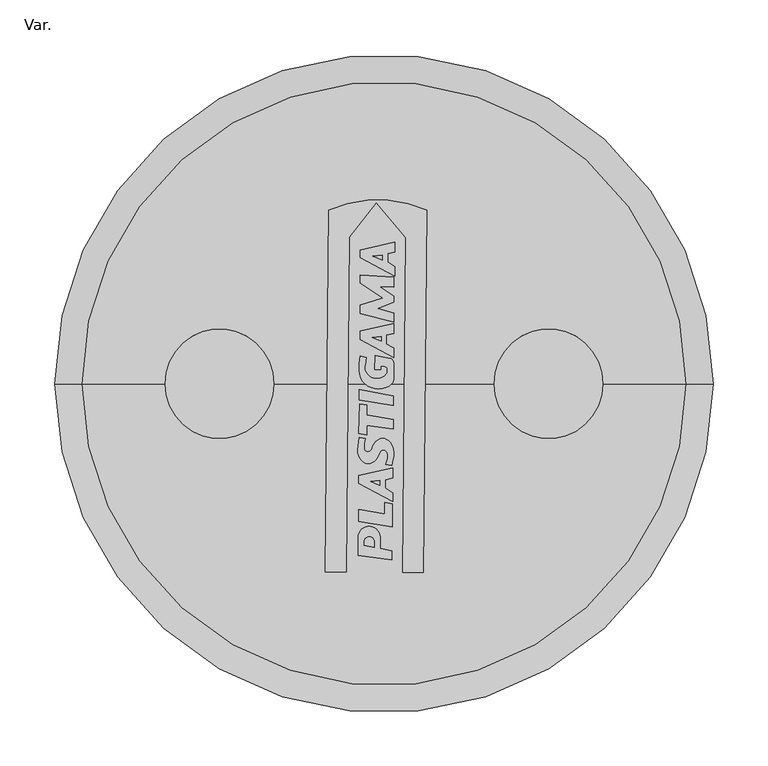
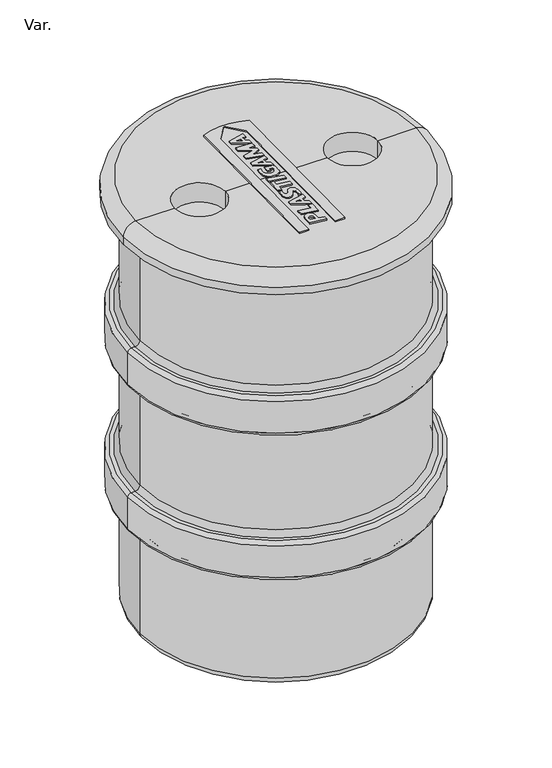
"""IFC4 building model written with IfcOpenShell, lengths in millimetres: pipe fitting geometry, PlastigamaWavin_Unionesdetubería_Tanque55Galones : Var.."""

import ifcopenshell
import ifcopenshell.guid

model = None  # the IFC model being written
_history = None  # IfcOwnerHistory: only IFC2X3 demands one
_inside = {}  # id of a spatial element -> (the spatial element, [elements in it])
_under = {}  # id of a project, library or spatial element -> (it, [spatial elements below it])
_declared = {}  # id of a project -> (the project, [libraries it declares])
_typed = {}  # id of a type object -> (the type object, [elements of that type])
_made_of = {}  # id of a material, layer set ... -> (it, [elements and type objects made of it])


def new_model(schema):
    """Start an empty IFC model of exactly this schema.

    Asked for "IFC4X3", IfcOpenShell would pick the latest addendum, in which some entities
    have other attributes; the version numbers below select the first issue.
    IFC2X3 requires an IfcOwnerHistory on every rooted entity: one is made here for all.
    """
    global model, _history
    if schema == "IFC4X3":
        model = ifcopenshell.file(schema_version=(4, 3, 0, 0))
    else:
        model = ifcopenshell.file(schema=schema)
    _inside.clear()
    _under.clear()
    _declared.clear()
    _typed.clear()
    _made_of.clear()
    _history = None
    if model.schema == "IFC2X3":
        org = make("IfcOrganization", Name="unknown")
        user = make(
            "IfcPersonAndOrganization",
            ThePerson=make("IfcPerson", FamilyName="unknown"),
            TheOrganization=org,
        )
        app = make(
            "IfcApplication",
            ApplicationDeveloper=org,
            Version="unknown",
            ApplicationFullName="unknown",
            ApplicationIdentifier="unknown",
        )
        _history = make(
            "IfcOwnerHistory",
            OwningUser=user,
            OwningApplication=app,
            ChangeAction="ADDED",
            CreationDate=0,
        )
    return model


def make(cls, **values):
    """One entity of the class cls with the attributes given. An attribute that is None is left unset."""
    return model.create_entity(
        cls, **{name: value for name, value in values.items() if value is not None}
    )


def rooted(cls, **values):
    """An entity with a GlobalId (a new one), such as an element, a storey or a relation."""
    return make(cls, GlobalId=ifcopenshell.guid.new(), OwnerHistory=_history, **values)


def si_unit(unit_type, name, prefix=None):
    """IfcSIUnit, for example si_unit("LENGTHUNIT", "METRE", prefix="MILLI")."""
    return make("IfcSIUnit", UnitType=unit_type, Prefix=prefix, Name=name)


def assignment(units):
    """IfcUnitAssignment: the units of a project."""
    return None if units is None else make("IfcUnitAssignment", Units=units)


def point(xyz):
    """IfcCartesianPoint."""
    return None if xyz is None else make("IfcCartesianPoint", Coordinates=xyz)


def direction(xyz):
    """IfcDirection."""
    return None if xyz is None else make("IfcDirection", DirectionRatios=xyz)


def frame(location, z_axis=None, x_axis=None):
    """IfcAxis2Placement3D, a coordinate frame: its origin and axes. An axis left out is left unset."""
    return make(
        "IfcAxis2Placement3D",
        Location=point(location),
        Axis=direction(z_axis),
        RefDirection=direction(x_axis),
    )


def frame_2d(location, x_axis=None):
    """IfcAxis2Placement2D, a coordinate frame in the plane: its origin and x axis."""
    return make(
        "IfcAxis2Placement2D", Location=point(location), RefDirection=direction(x_axis)
    )


def origin():
    """The frame at (0, 0, 0) with its axes left unset."""
    return frame((0.0, 0.0, 0.0))


def place(relative_to, where):
    """IfcLocalPlacement: puts the frame where relative to a parent placement (None: the world)."""
    return make(
        "IfcLocalPlacement", PlacementRelTo=relative_to, RelativePlacement=where
    )


def context(
    kind, dimensions, precision=None, world=None, true_north=None, identifier=None
):
    """IfcGeometricRepresentationContext, for example the 3D "Model" context."""
    return make(
        "IfcGeometricRepresentationContext",
        ContextIdentifier=identifier,
        ContextType=kind,
        CoordinateSpaceDimension=dimensions,
        Precision=precision,
        WorldCoordinateSystem=world,
        TrueNorth=true_north,
    )


def project(units=None, contexts=None):
    """IfcProject with its units and contexts."""
    return rooted(
        "IfcProject",
        Name="project",
        RepresentationContexts=contexts,
        UnitsInContext=assignment(units),
    )


def spatial(cls, under=None, at=None, **own):
    """A site, building, storey or space (cls), placed at a placement, below another one or the project."""
    s = rooted(cls, ObjectPlacement=at, **own)
    if under is not None:
        _under.setdefault(under.id(), (under, []))[1].append(s)
    return s


def polyline(points):
    """IfcPolyline through the points."""
    return make("IfcPolyline", Points=[point(p) for p in points])


def circle_curve(where, radius):
    """IfcCircle in the frame where."""
    return make("IfcCircle", Position=where, Radius=radius)


def ellipse_curve(where, semi_axis1, semi_axis2):
    """IfcEllipse in the frame where."""
    return make(
        "IfcEllipse", Position=where, SemiAxis1=semi_axis1, SemiAxis2=semi_axis2
    )


def trimmed(basis, trim1, trim2, sense, master):
    """IfcTrimmedCurve: the piece of a basis curve between two trims."""
    return make(
        "IfcTrimmedCurve",
        BasisCurve=basis,
        Trim1=trim1,
        Trim2=trim2,
        SenseAgreement=sense,
        MasterRepresentation=master,
    )


def segment(curve, same_sense, transition):
    """IfcCompositeCurveSegment."""
    return make(
        "IfcCompositeCurveSegment",
        Transition=transition,
        SameSense=same_sense,
        ParentCurve=curve,
    )


def composite_curve(segments, self_intersect=None):
    """IfcCompositeCurve: segments joined end to end."""
    return make("IfcCompositeCurve", Segments=segments, SelfIntersect=self_intersect)


def outline(outer, holes=None, kind="AREA"):
    """IfcArbitraryClosedProfileDef: a profile drawn as a closed curve; with holes, ...WithVoids."""
    if holes is None:
        return make("IfcArbitraryClosedProfileDef", ProfileType=kind, OuterCurve=outer)
    return make(
        "IfcArbitraryProfileDefWithVoids",
        ProfileType=kind,
        OuterCurve=outer,
        InnerCurves=holes,
    )


def extrude(swept, where, along, depth):
    """IfcExtrudedAreaSolid: the profile swept, set in the frame where, extruded along a direction by depth."""
    return make(
        "IfcExtrudedAreaSolid",
        SweptArea=swept,
        Position=where,
        ExtrudedDirection=direction(along),
        Depth=depth,
    )


def shape(context_of_items, identifier, shape_type, items):
    """IfcShapeRepresentation: the items that make up one representation, for example the "Body"."""
    return make(
        "IfcShapeRepresentation",
        ContextOfItems=context_of_items,
        RepresentationIdentifier=identifier,
        RepresentationType=shape_type,
        Items=items,
    )


def source(mapping_origin, context_of_items, identifier, shape_type, items):
    """IfcRepresentationMap: a shape defined once, which mapped items show again and again."""
    return make(
        "IfcRepresentationMap",
        MappingOrigin=mapping_origin,
        MappedRepresentation=shape(context_of_items, identifier, shape_type, items),
    )


def transform(
    local_origin,
    x_axis=None,
    y_axis=None,
    z_axis=None,
    scale=None,
    scale2=None,
    scale3=None,
    uniform=True,
):
    """IfcCartesianTransformationOperator3D, or its non-uniform kind. x_axis, y_axis, z_axis: its Axis1, 2, 3."""
    if uniform:
        return make(
            "IfcCartesianTransformationOperator3D",
            Axis1=direction(x_axis),
            Axis2=direction(y_axis),
            LocalOrigin=point(local_origin),
            Scale=scale,
            Axis3=direction(z_axis),
        )
    return make(
        "IfcCartesianTransformationOperator3DnonUniform",
        Axis1=direction(x_axis),
        Axis2=direction(y_axis),
        LocalOrigin=point(local_origin),
        Scale=scale,
        Axis3=direction(z_axis),
        Scale2=scale2,
        Scale3=scale3,
    )


def mapped(mapping_source, mapping_target):
    """IfcMappedItem: shows the shape of a source again, moved by a transform."""
    return make(
        "IfcMappedItem", MappingSource=mapping_source, MappingTarget=mapping_target
    )


def made_of(thing, what):
    """Note that an element or type object is made of a material, layer set ...; save() writes the relation."""
    if what is not None:
        _made_of.setdefault(what.id(), (what, []))[1].append(thing)
    return thing


def element(
    cls,
    number,
    at=None,
    inside=None,
    cuts=None,
    type_object=None,
    material=None,
    context=None,
    identifier="Body",
    shape_type=None,
    held_by="IfcProductDefinitionShape",
    body=None,
    shapes=None,
    **own,
):
    """One element of the class cls, such as IfcWall. Its Tag is "e" and its number.

    at: its placement. inside: the storey or other place that contains it. cuts: it is an
    opening in that element (IfcRelVoidsElement). A single representation is given by context,
    identifier, shape_type and body (its items); several are given by shapes. held_by: the class
    of the entity that holds the representations. save() writes the other relations.
    """
    e = rooted(cls, Tag="e%d" % number, ObjectPlacement=at, **own)
    if body is not None:
        shapes = [shape(context, identifier, shape_type, body)]
    if shapes is not None:
        e.Representation = make(held_by, Representations=shapes)
    if inside is not None:
        _inside.setdefault(inside.id(), (inside, []))[1].append(e)
    if cuts is not None:
        rooted(
            "IfcRelVoidsElement", RelatingBuildingElement=cuts, RelatedOpeningElement=e
        )
    if type_object is not None:
        _typed.setdefault(type_object.id(), (type_object, []))[1].append(e)
    return made_of(e, material)


def aggregate(whole, parts):
    """IfcRelAggregates: a whole, such as a stair, and the parts it consists of."""
    return rooted("IfcRelAggregates", RelatingObject=whole, RelatedObjects=parts)


def save(model, path):
    """Write the relations noted so far, then the file.

    IfcRelAggregates (storeys below a building ...), IfcRelContainedInSpatialStructure (elements
    in a storey), IfcRelDefinesByType, IfcRelAssociatesMaterial and IfcRelDeclares: one each for
    every whole, place, type object, material and project.
    """
    for whole, parts in _under.values():
        aggregate(whole, parts)
    for where, things in _inside.values():
        rooted(
            "IfcRelContainedInSpatialStructure",
            RelatedElements=things,
            RelatingStructure=where,
        )
    for kind, things in _typed.values():
        rooted("IfcRelDefinesByType", RelatedObjects=things, RelatingType=kind)
    for what, things in _made_of.values():
        rooted("IfcRelAssociatesMaterial", RelatedObjects=things, RelatingMaterial=what)
    for by, libraries in _declared.values():
        rooted("IfcRelDeclares", RelatingContext=by, RelatedDefinitions=libraries)
    model.write(path)


def plane_surface(at):
    """IfcPlane: the flat surface through the origin of the frame at, square to its z axis."""
    return make("IfcPlane", Position=at)


def cylinder_surface(at, radius):
    """IfcCylindricalSurface: all points at the distance radius from the z axis of the frame at."""
    return make("IfcCylindricalSurface", Position=at, Radius=radius)


def revolved_surface(curve, axis_point, axis_direction):
    """IfcSurfaceOfRevolution: the curve turned about the line through axis_point along axis_direction."""
    return make(
        "IfcSurfaceOfRevolution",
        SweptCurve=make("IfcArbitraryOpenProfileDef", ProfileType="CURVE", Curve=curve),
        AxisPosition=make("IfcAxis1Placement", Location=point(axis_point), Axis=direction(axis_direction)),
    )


def advanced_brep(points, edges, surfaces, faces):
    """IfcAdvancedBrep: a solid bounded by faces that lie on surfaces and meet in shared edges.

    An edge is (start, end): straight between two places in points (the first is 0);
    or (start, end, curve); or (start, end, curve, False) where it runs against its curve.
    A face is (place in surfaces, loops), or (place, loops, False) where it looks against
    its surface's normal. A loop lists edges by number (the first is 1), with a minus sign
    where the edge is run from its end to its start. The first loop is the outer one.
    """
    corners = [point(p) for p in points]
    vertices = [make("IfcVertexPoint", VertexGeometry=c) for c in corners]
    made = []
    for start, end, *more in edges:
        made.append(
            make(
                "IfcEdgeCurve",
                EdgeStart=vertices[start],
                EdgeEnd=vertices[end],
                EdgeGeometry=more[0] if more else make("IfcPolyline", Points=[corners[start], corners[end]]),
                SameSense=more[1] if len(more) > 1 else True,
            )
        )
    hull = []
    for where, loops, *sense in faces:
        bounds = []
        for j, loop in enumerate(loops):
            ring = [make("IfcOrientedEdge", EdgeElement=made[abs(k) - 1], Orientation=k > 0) for k in loop]
            bounds.append(
                make(
                    "IfcFaceOuterBound" if j == 0 else "IfcFaceBound",
                    Bound=make("IfcEdgeLoop", EdgeList=ring),
                    Orientation=True,
                )
            )
        hull.append(make("IfcAdvancedFace", Bounds=bounds, FaceSurface=surfaces[where], SameSense=sense[0] if sense else True))
    return make("IfcAdvancedBrep", Outer=make("IfcClosedShell", CfsFaces=hull))


def var_b17b46ca(model_context):
    return source(origin(), model_context, "Body", "SolidModel", [
        extrude(outline(composite_curve([segment(polyline([(-31.5385219, 133.859605), (-34.3652598, -171.5841986), (-53.4936229, -171.5841986), (-50.4421784, 158.1403342)]), True, "CONTINUOUS"), segment(trimmed(circle_curve(frame_2d((-5.7278647, 58.8979549)), 108.8504464), [point((-50.4421784, 158.1403342))], [point((38.986449, 158.1403342))], False, "CARTESIAN"), True, "CONTINUOUS"), segment(polyline([(38.986449, 158.1403342), (35.9289635, -172.2369583), (17.0404798, -172.2369583), (19.8701297, 133.5214992), (-6.8880963, 165.4107111), (-31.5385219, 133.859605)]), True, "CONTINUOUS")], self_intersect=False)), frame((0.0, 0.0, 873.4), z_axis=(0.0, 0.0, 1.0), x_axis=(1.0, 0.0, 0.0)), (0.0, 0.0, 1.0), 2.5),
        extrude(outline(composite_curve([segment(polyline([(-23.6323509, -156.3911548), (-23.6323509, -139.994773)]), True, "CONTINUOUS"), segment(trimmed(circle_curve(frame_2d((-13.6284364, -139.994773)), 10.0039144), [point((-23.6323509, -139.994773))], [point((-3.624522, -139.994773))], False, "CARTESIAN"), True, "CONTINUOUS"), segment(polyline([(-3.624522, -139.994773), (-3.624522, -150.3469533), (7.192797, -152.4496271), (7.192797, -160.7233469), (-23.6323509, -156.3911548)]), True, "CONTINUOUS")], self_intersect=False), holes=[composite_curve([segment(polyline([(-8.8328403, -149.3345588), (-8.8328403, -144.0145289)]), True, "CONTINUOUS"), segment(trimmed(circle_curve(frame_2d((-13.3920421, -144.0145289)), 4.5592018), [point((-8.8328403, -144.0145289))], [point((-17.7746281, -142.7578426))], True, "CARTESIAN"), True, "CONTINUOUS"), segment(polyline([(-17.7746281, -142.7578426), (-17.7746281, -147.5964513), (-8.8328403, -149.3345588)]), True, "CONTINUOUS")], self_intersect=False)]), frame((0.0, 0.0, 873.4), z_axis=(0.0, 0.0, 1.0), x_axis=(1.0, 0.0, 0.0)), (0.0, 0.0, 1.0), 2.5),
        extrude(outline(polyline([(-23.1956774, -125.5469152), (-23.1956774, -114.64737), (0.5456779, -118.9297873), (0.5456779, -108.4474914), (7.5664867, -109.5594783), (7.5664867, -130.4191633), (-23.1956774, -125.5469152)])), frame((0.0, 0.0, 873.4), z_axis=(0.0, 0.0, 1.0), x_axis=(1.0, 0.0, 0.0)), (0.0, 0.0, 1.0), 2.5),
        extrude(outline(polyline([(-23.1956774, -83.5332099), (7.837741, -76.9368532), (7.837741, -85.6809884), (0.9404896, -87.5291013), (0.9404896, -95.0129013), (7.837741, -99.4920287), (7.837741, -107.549982), (-23.1956774, -90.8622131), (-23.1956774, -83.5332099)]), holes=[polyline([(-3.9574408, -88.2263015), (-12.1373795, -89.0860477), (-3.9574408, -92.8157668), (-3.9574408, -88.2263015)])]), frame((0.0, 0.0, 873.4), z_axis=(0.0, 0.0, 1.0), x_axis=(1.0, 0.0, 0.0)), (0.0, 0.0, 1.0), 2.5),
        extrude(outline(composite_curve([segment(polyline([(6.8385227, -74.3063168), (1.5490786, -73.3736451)]), True, "CONTINUOUS"), segment(trimmed(circle_curve(frame_2d((-10.0642147, -66.5867195)), 13.4510572), [point((1.5490786, -73.3736451))], [point((2.8479599, -62.8175437))], True, "CARTESIAN"), True, "CONTINUOUS"), segment(trimmed(circle_curve(frame_2d((-0.4256868, -63.7731496)), 3.4102706), [point((2.8479599, -62.8175437))], [point((-2.7829451, -61.3087472))], True, "CARTESIAN"), True, "CONTINUOUS"), segment(trimmed(circle_curve(frame_2d((9.7682105, -71.0752619)), 15.9033429), [point((-2.7829451, -61.3087472))], [point((-5.2540374, -65.8552635))], True, "CARTESIAN"), True, "CONTINUOUS"), segment(trimmed(circle_curve(frame_2d((-14.9330175, -62.4919678)), 10.2466782), [point((-5.2540374, -65.8552635))], [point((-16.8598081, -72.5558583))], False, "CARTESIAN"), True, "CONTINUOUS"), segment(trimmed(circle_curve(frame_2d((-11.7475447, -61.5925741)), 12.0966457), [point((-16.8598081, -72.5558583))], [point((-23.798159, -60.538282))], False, "CARTESIAN"), True, "CONTINUOUS"), segment(polyline([(-23.798159, -60.538282), (-22.7719817, -48.8090209), (-17.2120011, -49.7893954), (-17.7837428, -54.4458584)]), True, "CONTINUOUS"), segment(trimmed(circle_curve(frame_2d((10.8726129, -58.6156266)), 28.9581368), [point((-17.7837428, -54.4458584))], [point((-18.085524, -58.6156266))], True, "CARTESIAN"), True, "CONTINUOUS"), segment(trimmed(circle_curve(frame_2d((-14.6255215, -58.6156266)), 3.4600025), [point((-18.085524, -58.6156266))], [point((-11.3463487, -59.7195483))], True, "CARTESIAN"), True, "CONTINUOUS"), segment(trimmed(circle_curve(frame_2d((10.4189679, -67.0467638)), 22.9655632), [point((-11.3463487, -59.7195483))], [point((-8.593666, -54.1651161))], False, "CARTESIAN"), True, "CONTINUOUS"), segment(trimmed(circle_curve(frame_2d((-1.2726628, -58.3957643)), 8.4554994), [point((-8.593666, -54.1651161))], [point((6.0483403, -54.1651161))], False, "CARTESIAN"), True, "CONTINUOUS"), segment(trimmed(circle_curve(frame_2d((-11.6011034, -64.3643451)), 20.3844826), [point((6.0483403, -54.1651161))], [point((8.7058102, -62.5877203))], False, "CARTESIAN"), True, "CONTINUOUS"), segment(trimmed(circle_curve(frame_2d((-11.6011034, -64.3643451)), 20.3844826), [point((8.7058102, -62.5877203))], [point((8.0887949, -69.6402374))], False, "CARTESIAN"), True, "CONTINUOUS"), segment(polyline([(8.0887949, -69.6402374), (6.8385227, -74.3063168)]), True, "CONTINUOUS")], self_intersect=False)), frame((0.0, 0.0, 873.4), z_axis=(0.0, 0.0, 1.0), x_axis=(1.0, 0.0, 0.0)), (0.0, 0.0, 1.0), 2.5),
        extrude(outline(polyline([(-15.680623, -46.7961287), (-22.8586034, -45.5304571), (-22.1107527, -18.4418439), (-15.680623, -19.3455397), (-15.680623, -28.3243983), (8.3617078, -32.5637099), (8.3617078, -41.2381061), (-15.680623, -37.8591769), (-15.680623, -46.7961287)])), frame((0.0, 0.0, 873.4), z_axis=(0.0, 0.0, 1.0), x_axis=(1.0, 0.0, 0.0)), (0.0, 0.0, 1.0), 2.5),
        extrude(outline(polyline([(-22.7512265, -14.8981025), (-22.4808988, -5.1063028), (8.4516878, -11.1189886), (8.4516878, -19.8401587), (-22.7512265, -14.8981025)])), frame((0.0, 0.0, 873.4), z_axis=(0.0, 0.0, 1.0), x_axis=(1.0, 0.0, 0.0)), (0.0, 0.0, 1.0), 2.5),
        extrude(outline(composite_curve([segment(polyline([(-2.8845017, 12.7639927), (-8.2163464, 13.1368316), (-7.879318, 25.6872293), (5.4838506, 23.0896925)]), True, "CONTINUOUS"), segment(trimmed(circle_curve(frame_2d((4.7275582, 19.1989052)), 3.96361), [point((5.4838506, 23.0896925))], [point((8.4617568, 20.5278012))], False, "CARTESIAN"), True, "CONTINUOUS"), segment(trimmed(circle_curve(frame_2d((-8.4434383, 16.1010866)), 17.4751659), [point((8.4617568, 20.5278012))], [point((9.0317276, 16.1010866))], False, "CARTESIAN"), True, "CONTINUOUS"), segment(polyline([(9.0317276, 16.1010866), (9.0317276, 7.3075238)]), True, "CONTINUOUS"), segment(trimmed(circle_curve(frame_2d((-0.2161069, 6.0078254)), 9.3387183), [point((9.0317276, 7.3075238))], [point((4.7326598, -1.9118569))], False, "CARTESIAN"), True, "CONTINUOUS"), segment(trimmed(circle_curve(frame_2d((-5.0308149, 13.7129688)), 18.424457), [point((4.7326598, -1.9118569))], [point((-14.7942896, -1.9118569))], False, "CARTESIAN"), True, "CONTINUOUS"), segment(trimmed(circle_curve(frame_2d((-5.9685773, 12.2122353)), 16.6548245), [point((-14.7942896, -1.9118569))], [point((-22.6234018, 12.2122353))], False, "CARTESIAN"), True, "CONTINUOUS"), segment(polyline([(-22.6234018, 12.2122353), (-22.6234018, 18.2354827), (-21.7718562, 25.1707646), (-16.1720897, 23.8779567), (-17.1946903, 16.9442867)]), True, "CONTINUOUS"), segment(trimmed(circle_curve(frame_2d((-8.442524, 14.764993)), 9.0194089), [point((-17.1946903, 16.9442867))], [point((-16.2409366, 10.2334923))], True, "CARTESIAN"), True, "CONTINUOUS"), segment(trimmed(circle_curve(frame_2d((-6.6127825, 15.828219)), 11.1356328), [point((-16.2409366, 10.2334923))], [point((1.993879, 8.7622656))], True, "CARTESIAN"), True, "CONTINUOUS"), segment(trimmed(circle_curve(frame_2d((-1.808684, 11.8841187)), 4.9199036), [point((1.993879, 8.7622656))], [point((2.9575575, 13.1041159))], True, "CARTESIAN"), True, "CONTINUOUS"), segment(trimmed(circle_curve(frame_2d((0.3239664, 13.1041159)), 2.6335912), [point((2.9575575, 13.1041159))], [point((0.6449204, 15.7180767))], True, "CARTESIAN"), True, "CONTINUOUS"), segment(polyline([(0.6449204, 15.7180767), (-2.8845017, 16.1514352), (-2.8845017, 12.7639927)]), True, "CONTINUOUS")], self_intersect=False)), frame((0.0, 0.0, 873.4), z_axis=(0.0, 0.0, 1.0), x_axis=(1.0, 0.0, 0.0)), (0.0, 0.0, 1.0), 2.5),
        extrude(outline(polyline([(-21.8262667, 40.3893966), (-21.8262667, 48.2568096), (9.0317276, 54.8158788), (9.0317276, 46.0076975), (2.0279613, 44.519001), (2.0279613, 36.4295821), (9.0317276, 32.7056135), (9.0317276, 23.9819099), (-21.8262667, 40.3893966)]), holes=[polyline([(-2.5477847, 38.8625495), (-2.5477847, 43.0339496), (-10.5942611, 42.2780761), (-2.5477847, 38.8625495)])]), frame((0.0, 0.0, 873.4), z_axis=(0.0, 0.0, 1.0), x_axis=(1.0, 0.0, 0.0)), (0.0, 0.0, 1.0), 2.5),
        extrude(outline(polyline([(-21.8262667, 63.9501305), (-21.8262667, 71.5735975), (-1.204018, 78.2741723), (-21.8262667, 91.6664172), (-21.8262667, 99.13191), (9.0317276, 97.5147111), (9.0317276, 88.0033615), (-4.5410858, 88.7146825), (9.0317276, 79.9003944), (9.0317276, 74.4133333), (-5.6724839, 68.7689154), (9.0317276, 64.5525506), (9.0317276, 56.2563684), (-21.8262667, 63.9501305)])), frame((0.0, 0.0, 873.4), z_axis=(0.0, 0.0, 1.0), x_axis=(1.0, 0.0, 0.0)), (0.0, 0.0, 1.0), 2.5),
        extrude(outline(polyline([(-21.658062, 115.0128655), (-21.658062, 122.0963994), (9.6046794, 129.3139719), (9.6046794, 119.9663743), (3.4389598, 118.5429058), (3.4389598, 111.0920759), (9.6046794, 107.0880108), (9.6046794, 98.390171), (-21.658062, 115.0128655)]), holes=[polyline([(-10.0971501, 116.2794653), (-1.5816394, 112.6648455), (-1.5816394, 117.3838092), (-10.0971501, 116.2794653)])]), frame((0.0, 0.0, 873.4), z_axis=(0.0, 0.0, 1.0), x_axis=(1.0, 0.0, 0.0)), (0.0, 0.0, 1.0), 2.5),
        advanced_brep(
        [(275.0, 0.0, 873.4), (-275.0, 0.0, 873.4), (-200.0, 0.0, 873.4), (-100.0, 0.0, 873.4), (0.0, 0.0, 873.4), (100.0, 0.0, 873.4), (200.0, 0.0, 873.4), (300.0, 0.0, 833.4), (-300.0, 0.0, 833.4), (-300.0, 0.0, 848.4), (300.0, 0.0, 848.4), (267.35, 0.0, 833.4), (-267.35, 0.0, 833.4), (267.35, 0.0, 623.0), (-267.35, 0.0, 623.0), (283.8693363, 0.0, 613.0), (-283.8693363, 0.0, 613.0), (-277.35, 0.0, 613.0), (277.35, 0.0, 613.0), (291.53, 0.0, 540.2), (-291.53, 0.0, 540.2), (-291.53, 0.0, 605.3393363), (291.53, 0.0, 605.3393363), (279.35, 0.0, 533.2), (-279.35, 0.0, 533.2), (-284.53, 0.0, 533.2), (284.53, 0.0, 533.2), (267.35, 0.0, 322.8), (-267.35, 0.0, 322.8), (-267.35, 0.0, 521.2), (267.35, 0.0, 521.2), (284.4461472, 0.0, 312.8), (-284.4461472, 0.0, 312.8), (-277.35, 0.0, 312.8), (277.35, 0.0, 312.8), (291.53, 0.0, 240.6415018), (-291.53, 0.0, 240.6415018), (-291.53, 0.0, 305.7161472), (291.53, 0.0, 305.7161472), (279.5009453, 0.0, 233.0), (-279.5009453, 0.0, 233.0), (-283.8884982, 0.0, 233.0), (283.8884982, 0.0, 233.0), (267.35, 0.0, 15.0), (-267.35, 0.0, 15.0), (-267.35, 0.0, 220.8490547), (267.35, 0.0, 220.8490547), (0.0, 0.0, 0.0), (-252.35, 0.0, 0.0), (252.35, 0.0, 0.0), (-200.0, 0.0, 833.4), (-100.0, 0.0, 833.4), (100.0, 0.0, 833.4), (200.0, 0.0, 833.4)],
        [
            (0, 1, circle_curve(frame((0.0, 0.0, 873.4), z_axis=(0.0, 0.0, 1.0), x_axis=(-1.0, 0.0, 0.0)), 275.0)),
            (1, 2),
            (2, 3, circle_curve(frame((-150.0, 0.0, 873.4), z_axis=(0.0, 0.0, -1.0), x_axis=(1.0, 0.0, 0.0)), 50.0)),
            (3, 4),
            (4, 5),
            (5, 6, circle_curve(frame((150.0, 0.0, 873.4), z_axis=(0.0, 0.0, -1.0), x_axis=(1.0, 0.0, 0.0)), 50.0)),
            (6, 0),
            (1, 0, circle_curve(frame((0.0, 0.0, 873.4), z_axis=(0.0, 0.0, 1.0), x_axis=(-1.0, 0.0, 0.0)), 275.0)),
            (6, 5, circle_curve(frame((150.0, 0.0, 873.4), z_axis=(0.0, 0.0, -1.0), x_axis=(1.0, 0.0, 0.0)), 50.0)),
            (3, 2, circle_curve(frame((-150.0, 0.0, 873.4), z_axis=(0.0, 0.0, -1.0), x_axis=(1.0, 0.0, 0.0)), 50.0)),
            (7, 8, circle_curve(frame((0.0, 0.0, 833.4), z_axis=(0.0, 0.0, 1.0), x_axis=(-1.0, 0.0, 0.0)), 300.0)),
            (8, 9),
            (9, 10, circle_curve(frame((0.0, 0.0, 848.4), z_axis=(0.0, 0.0, -1.0), x_axis=(-1.0, 0.0, 0.0)), 300.0)),
            (10, 7),
            (8, 7, circle_curve(frame((0.0, 0.0, 833.4), z_axis=(0.0, 0.0, 1.0), x_axis=(-1.0, 0.0, 0.0)), 300.0)),
            (10, 9, circle_curve(frame((0.0, 0.0, 848.4), z_axis=(0.0, 0.0, -1.0), x_axis=(-1.0, 0.0, 0.0)), 300.0)),
            (7, 11),
            (11, 12, circle_curve(frame((0.0, 0.0, 833.4), z_axis=(0.0, 0.0, 1.0), x_axis=(-1.0, 0.0, 0.0)), 267.35)),
            (12, 8),
            (12, 11, circle_curve(frame((0.0, 0.0, 833.4), z_axis=(0.0, 0.0, 1.0), x_axis=(-1.0, 0.0, 0.0)), 267.35)),
            (11, 13),
            (13, 14, circle_curve(frame((0.0, 0.0, 623.0), z_axis=(0.0, 0.0, 1.0), x_axis=(-1.0, 0.0, 0.0)), 267.35)),
            (14, 12),
            (14, 13, circle_curve(frame((0.0, 0.0, 623.0), z_axis=(0.0, 0.0, 1.0), x_axis=(-1.0, 0.0, 0.0)), 267.35)),
            (15, 16, circle_curve(frame((0.0, 0.0, 613.0), z_axis=(0.0, 0.0, 1.0), x_axis=(-1.0, 0.0, 0.0)), 283.8693363)),
            (16, 17),
            (17, 18, circle_curve(frame((0.0, 0.0, 613.0), z_axis=(0.0, 0.0, -1.0), x_axis=(-1.0, 0.0, 0.0)), 277.35)),
            (18, 15),
            (16, 15, circle_curve(frame((0.0, 0.0, 613.0), z_axis=(0.0, 0.0, 1.0), x_axis=(-1.0, 0.0, 0.0)), 283.8693363)),
            (18, 17, circle_curve(frame((0.0, 0.0, 613.0), z_axis=(0.0, 0.0, -1.0), x_axis=(-1.0, 0.0, 0.0)), 277.35)),
            (19, 20, circle_curve(frame((0.0, 0.0, 540.2), z_axis=(0.0, 0.0, 1.0), x_axis=(-1.0, 0.0, 0.0)), 291.53)),
            (20, 21),
            (21, 22, circle_curve(frame((0.0, 0.0, 605.3393363), z_axis=(0.0, 0.0, -1.0), x_axis=(-1.0, 0.0, 0.0)), 291.53)),
            (22, 19),
            (20, 19, circle_curve(frame((0.0, 0.0, 540.2), z_axis=(0.0, 0.0, 1.0), x_axis=(-1.0, 0.0, 0.0)), 291.53)),
            (22, 21, circle_curve(frame((0.0, 0.0, 605.3393363), z_axis=(0.0, 0.0, -1.0), x_axis=(-1.0, 0.0, 0.0)), 291.53)),
            (23, 24, circle_curve(frame((0.0, 0.0, 533.2), z_axis=(0.0, 0.0, 1.0), x_axis=(-1.0, 0.0, 0.0)), 279.35)),
            (24, 25),
            (25, 26, circle_curve(frame((0.0, 0.0, 533.2), z_axis=(0.0, 0.0, -1.0), x_axis=(-1.0, 0.0, 0.0)), 284.53)),
            (26, 23),
            (24, 23, circle_curve(frame((0.0, 0.0, 533.2), z_axis=(0.0, 0.0, 1.0), x_axis=(-1.0, 0.0, 0.0)), 279.35)),
            (26, 25, circle_curve(frame((0.0, 0.0, 533.2), z_axis=(0.0, 0.0, -1.0), x_axis=(-1.0, 0.0, 0.0)), 284.53)),
            (27, 28, circle_curve(frame((0.0, 0.0, 322.8), z_axis=(0.0, 0.0, 1.0), x_axis=(-1.0, 0.0, 0.0)), 267.35)),
            (28, 29),
            (29, 30, circle_curve(frame((0.0, 0.0, 521.2), z_axis=(0.0, 0.0, -1.0), x_axis=(-1.0, 0.0, 0.0)), 267.35)),
            (30, 27),
            (28, 27, circle_curve(frame((0.0, 0.0, 322.8), z_axis=(0.0, 0.0, 1.0), x_axis=(-1.0, 0.0, 0.0)), 267.35)),
            (30, 29, circle_curve(frame((0.0, 0.0, 521.2), z_axis=(0.0, 0.0, -1.0), x_axis=(-1.0, 0.0, 0.0)), 267.35)),
            (31, 32, circle_curve(frame((0.0, 0.0, 312.8), z_axis=(0.0, 0.0, 1.0), x_axis=(-1.0, 0.0, 0.0)), 284.4461472)),
            (32, 33),
            (33, 34, circle_curve(frame((0.0, 0.0, 312.8), z_axis=(0.0, 0.0, -1.0), x_axis=(-1.0, 0.0, 0.0)), 277.35)),
            (34, 31),
            (32, 31, circle_curve(frame((0.0, 0.0, 312.8), z_axis=(0.0, 0.0, 1.0), x_axis=(-1.0, 0.0, 0.0)), 284.4461472)),
            (34, 33, circle_curve(frame((0.0, 0.0, 312.8), z_axis=(0.0, 0.0, -1.0), x_axis=(-1.0, 0.0, 0.0)), 277.35)),
            (35, 36, circle_curve(frame((0.0, 0.0, 240.6415018), z_axis=(0.0, 0.0, 1.0), x_axis=(-1.0, 0.0, 0.0)), 291.53)),
            (36, 37),
            (37, 38, circle_curve(frame((0.0, 0.0, 305.7161472), z_axis=(0.0, 0.0, -1.0), x_axis=(-1.0, 0.0, 0.0)), 291.53)),
            (38, 35),
            (36, 35, circle_curve(frame((0.0, 0.0, 240.6415018), z_axis=(0.0, 0.0, 1.0), x_axis=(-1.0, 0.0, 0.0)), 291.53)),
            (38, 37, circle_curve(frame((0.0, 0.0, 305.7161472), z_axis=(0.0, 0.0, -1.0), x_axis=(-1.0, 0.0, 0.0)), 291.53)),
            (39, 40, circle_curve(frame((0.0, 0.0, 233.0), z_axis=(0.0, 0.0, 1.0), x_axis=(-1.0, 0.0, 0.0)), 279.5009453)),
            (40, 41),
            (41, 42, circle_curve(frame((0.0, 0.0, 233.0), z_axis=(0.0, 0.0, -1.0), x_axis=(-1.0, 0.0, 0.0)), 283.8884982)),
            (42, 39),
            (40, 39, circle_curve(frame((0.0, 0.0, 233.0), z_axis=(0.0, 0.0, 1.0), x_axis=(-1.0, 0.0, 0.0)), 279.5009453)),
            (42, 41, circle_curve(frame((0.0, 0.0, 233.0), z_axis=(0.0, 0.0, -1.0), x_axis=(-1.0, 0.0, 0.0)), 283.8884982)),
            (43, 44, circle_curve(frame((0.0, 0.0, 15.0), z_axis=(0.0, 0.0, 1.0), x_axis=(-1.0, 0.0, 0.0)), 267.35)),
            (44, 45),
            (45, 46, circle_curve(frame((0.0, 0.0, 220.8490547), z_axis=(0.0, 0.0, -1.0), x_axis=(-1.0, 0.0, 0.0)), 267.35)),
            (46, 43),
            (44, 43, circle_curve(frame((0.0, 0.0, 15.0), z_axis=(0.0, 0.0, 1.0), x_axis=(-1.0, 0.0, 0.0)), 267.35)),
            (46, 45, circle_curve(frame((0.0, 0.0, 220.8490547), z_axis=(0.0, 0.0, -1.0), x_axis=(-1.0, 0.0, 0.0)), 267.35)),
            (47, 48),
            (48, 49, circle_curve(frame((0.0, 0.0, 0.0), z_axis=(0.0, 0.0, -1.0), x_axis=(-1.0, 0.0, 0.0)), 252.35)),
            (49, 47),
            (49, 48, circle_curve(frame((0.0, 0.0, 0.0), z_axis=(0.0, 0.0, -1.0), x_axis=(-1.0, 0.0, 0.0)), 252.35)),
            (27, 34, circle_curve(frame((277.35, 0.0, 322.8), z_axis=(0.0, -1.0, 0.0), x_axis=(-1.0, 0.0, 0.0)), 10.0)),
            (33, 28, circle_curve(frame((-277.35, 0.0, 322.8), z_axis=(0.0, -1.0, 0.0), x_axis=(1.0, 0.0, 0.0)), 10.0)),
            (31, 38, circle_curve(frame((284.4461472, 0.0, 305.7161472), z_axis=(0.0, 1.0, 0.0), x_axis=(-1.0, 0.0, 0.0)), 7.0838528)),
            (37, 32, circle_curve(frame((-284.4461472, 0.0, 305.7161472), z_axis=(0.0, 1.0, 0.0), x_axis=(1.0, 0.0, 0.0)), 7.0838528)),
            (35, 42, circle_curve(frame((283.8884982, 0.0, 240.6415018), z_axis=(0.0, 1.0, 0.0), x_axis=(-1.0, 0.0, 0.0)), 7.6415018)),
            (41, 36, circle_curve(frame((-283.8884982, 0.0, 240.6415018), z_axis=(0.0, 1.0, 0.0), x_axis=(1.0, 0.0, 0.0)), 7.6415018)),
            (39, 46, circle_curve(frame((279.5009453, 0.0, 220.8490547), z_axis=(0.0, -1.0, 0.0), x_axis=(-1.0, 0.0, 0.0)), 12.1509453)),
            (45, 40, circle_curve(frame((-279.5009453, 0.0, 220.8490547), z_axis=(0.0, -1.0, 0.0), x_axis=(1.0, 0.0, 0.0)), 12.1509453)),
            (0, 10, circle_curve(frame((275.0, 0.0, 848.4), z_axis=(0.0, 1.0, 0.0), x_axis=(-1.0, 0.0, 0.0)), 25.0)),
            (9, 1, circle_curve(frame((-275.0, 0.0, 848.4), z_axis=(0.0, 1.0, 0.0), x_axis=(1.0, 0.0, 0.0)), 25.0)),
            (13, 18, circle_curve(frame((277.35, 0.0, 623.0), z_axis=(0.0, -1.0, 0.0), x_axis=(-1.0, 0.0, 0.0)), 10.0)),
            (17, 14, circle_curve(frame((-277.35, 0.0, 623.0), z_axis=(0.0, -1.0, 0.0), x_axis=(1.0, 0.0, 0.0)), 10.0)),
            (19, 26, circle_curve(frame((284.53, 0.0, 540.2), z_axis=(0.0, 1.0, 0.0), x_axis=(-1.0, 0.0, 0.0)), 7.0)),
            (25, 20, circle_curve(frame((-284.53, 0.0, 540.2), z_axis=(0.0, 1.0, 0.0), x_axis=(1.0, 0.0, 0.0)), 7.0)),
            (23, 30, circle_curve(frame((279.35, 0.0, 521.2), z_axis=(0.0, -1.0, 0.0), x_axis=(-1.0, 0.0, 0.0)), 12.0)),
            (29, 24, circle_curve(frame((-279.35, 0.0, 521.2), z_axis=(0.0, -1.0, 0.0), x_axis=(1.0, 0.0, 0.0)), 12.0)),
            (15, 22, circle_curve(frame((283.8693363, 0.0, 605.3393363), z_axis=(0.0, 1.0, 0.0), x_axis=(-1.0, 0.0, 0.0)), 7.6606637)),
            (21, 16, circle_curve(frame((-283.8693363, 0.0, 605.3393363), z_axis=(0.0, 1.0, 0.0), x_axis=(1.0, 0.0, 0.0)), 7.6606637)),
            (43, 49, circle_curve(frame((252.35, 0.0, 15.0), z_axis=(0.0, 1.0, 0.0), x_axis=(-1.0, 0.0, 0.0)), 15.0)),
            (48, 44, circle_curve(frame((-252.35, 0.0, 15.0), z_axis=(0.0, 1.0, 0.0), x_axis=(1.0, 0.0, 0.0)), 15.0)),
            (50, 51, circle_curve(frame((-150.0, 0.0, 833.4), z_axis=(0.0, 0.0, 1.0), x_axis=(1.0, 0.0, 0.0)), 50.0)),
            (51, 50, circle_curve(frame((-150.0, 0.0, 833.4), z_axis=(0.0, 0.0, 1.0), x_axis=(1.0, 0.0, 0.0)), 50.0)),
            (51, 3),
            (2, 50),
            (52, 53, circle_curve(frame((150.0, 0.0, 833.4), z_axis=(0.0, 0.0, 1.0), x_axis=(1.0, 0.0, 0.0)), 50.0)),
            (53, 52, circle_curve(frame((150.0, 0.0, 833.4), z_axis=(0.0, 0.0, 1.0), x_axis=(1.0, 0.0, 0.0)), 50.0)),
            (52, 5),
            (6, 53),
        ],
        [
            plane_surface(frame((0.0, 0.0, 873.4), z_axis=(0.0, 0.0, 1.0), x_axis=(-1.0, 0.0, 0.0))),
            cylinder_surface(frame((0.0, 0.0, 2175.3150031), z_axis=(0.0, 0.0, -1.0), x_axis=(-1.0, 0.0, 0.0)), 300.0),
            plane_surface(frame((0.0, 0.0, 833.4), z_axis=(0.0, 0.0, -1.0), x_axis=(-1.0, 0.0, 0.0))),
            cylinder_surface(frame((0.0, 0.0, 2175.3150031), z_axis=(0.0, 0.0, -1.0), x_axis=(-1.0, 0.0, 0.0)), 267.35),
            plane_surface(frame((0.0, 0.0, 613.0), z_axis=(0.0, 0.0, 1.0), x_axis=(-1.0, 0.0, 0.0))),
            cylinder_surface(frame((0.0, 0.0, 2175.3150031), z_axis=(0.0, 0.0, -1.0), x_axis=(-1.0, 0.0, 0.0)), 291.53),
            plane_surface(frame((0.0, 0.0, 533.2), z_axis=(0.0, 0.0, -1.0), x_axis=(-1.0, 0.0, 0.0))),
            plane_surface(frame((0.0, 0.0, 312.8), z_axis=(0.0, 0.0, 1.0), x_axis=(-1.0, 0.0, 0.0))),
            plane_surface(frame((0.0, 0.0, 233.0), z_axis=(0.0, 0.0, -1.0), x_axis=(-1.0, 0.0, 0.0))),
            plane_surface(frame((0.0, 0.0, 0.0), z_axis=(0.0, 0.0, -1.0), x_axis=(-1.0, 0.0, 0.0))),
            revolved_surface(trimmed(ellipse_curve(frame((-277.35, 0.0, 322.8), z_axis=(0.0, 1.0, 0.0), x_axis=(1.0, 0.0, 0.0)), 10.0, 10.0), [point((-267.35, 0.0, 322.8))], [point((-277.35, 0.0, 312.8))], True, "CARTESIAN"), (0.0, 0.0, 2175.3150031), (0.0, 0.0, -1.0)),
            revolved_surface(trimmed(ellipse_curve(frame((-284.4461472, 0.0, 305.7161472), z_axis=(0.0, -1.0, 0.0), x_axis=(1.0, 0.0, 0.0)), 7.0838528, 7.0838528), [point((-284.4461472, 0.0, 312.8))], [point((-291.53, 0.0, 305.7161472))], True, "CARTESIAN"), (0.0, 0.0, 2175.3150031), (0.0, 0.0, -1.0)),
            revolved_surface(trimmed(ellipse_curve(frame((-283.8884982, 0.0, 240.6415018), z_axis=(0.0, -1.0, 0.0), x_axis=(1.0, 0.0, 0.0)), 7.6415018, 7.6415018), [point((-291.53, 0.0, 240.6415018))], [point((-283.8884982, 0.0, 233.0))], True, "CARTESIAN"), (0.0, 0.0, 2175.3150031), (0.0, 0.0, -1.0)),
            revolved_surface(trimmed(ellipse_curve(frame((-279.5009453, 0.0, 220.8490547), z_axis=(0.0, 1.0, 0.0), x_axis=(1.0, 0.0, 0.0)), 12.1509453, 12.1509453), [point((-279.5009453, 0.0, 233.0))], [point((-267.35, 0.0, 220.8490547))], True, "CARTESIAN"), (0.0, 0.0, 2175.3150031), (0.0, 0.0, -1.0)),
            revolved_surface(trimmed(ellipse_curve(frame((-275.0, 0.0, 848.4), z_axis=(0.0, -1.0, 0.0), x_axis=(1.0, 0.0, 0.0)), 25.0, 25.0), [point((-275.0, 0.0, 873.4))], [point((-300.0, 0.0, 848.4))], True, "CARTESIAN"), (0.0, 0.0, 2175.3150031), (0.0, 0.0, -1.0)),
            revolved_surface(trimmed(ellipse_curve(frame((-277.35, 0.0, 623.0), z_axis=(0.0, 1.0, 0.0), x_axis=(1.0, 0.0, 0.0)), 10.0, 10.0), [point((-267.35, 0.0, 623.0))], [point((-277.35, 0.0, 613.0))], True, "CARTESIAN"), (0.0, 0.0, 2175.3150031), (0.0, 0.0, -1.0)),
            revolved_surface(trimmed(ellipse_curve(frame((-284.53, 0.0, 540.2), z_axis=(0.0, -1.0, 0.0), x_axis=(1.0, 0.0, 0.0)), 7.0, 7.0), [point((-291.53, 0.0, 540.2))], [point((-284.53, 0.0, 533.2))], True, "CARTESIAN"), (0.0, 0.0, 2175.3150031), (0.0, 0.0, -1.0)),
            revolved_surface(trimmed(ellipse_curve(frame((-279.35, 0.0, 521.2), z_axis=(0.0, 1.0, 0.0), x_axis=(1.0, 0.0, 0.0)), 12.0, 12.0), [point((-279.35, 0.0, 533.2))], [point((-267.35, 0.0, 521.2))], True, "CARTESIAN"), (0.0, 0.0, 2175.3150031), (0.0, 0.0, -1.0)),
            revolved_surface(trimmed(ellipse_curve(frame((-283.8693363, 0.0, 605.3393363), z_axis=(0.0, -1.0, 0.0), x_axis=(1.0, 0.0, 0.0)), 7.6606637, 7.6606637), [point((-283.8693363, 0.0, 613.0))], [point((-291.53, 0.0, 605.3393363))], True, "CARTESIAN"), (0.0, 0.0, 2175.3150031), (0.0, 0.0, -1.0)),
            revolved_surface(trimmed(ellipse_curve(frame((-252.35, 0.0, 15.0), z_axis=(0.0, -1.0, 0.0), x_axis=(1.0, 0.0, 0.0)), 15.0, 15.0), [point((-267.35, 0.0, 15.0))], [point((-252.35, 0.0, 0.0))], True, "CARTESIAN"), (0.0, 0.0, 2175.3150031), (0.0, 0.0, -1.0)),
            plane_surface(frame((-100.0, 0.0, 833.4), z_axis=(0.0, 0.0, 1.0), x_axis=(0.0, -1.0, 0.0))),
            revolved_surface(polyline([(-100.0, 0.0, 833.4), (-100.0, 0.0, 873.4)]), (-150.0, 0.0, 879.7978963), (0.0, 0.0, -1.0)),
            plane_surface(frame((200.0, 0.0, 833.4), z_axis=(0.0, 0.0, 1.0), x_axis=(0.0, -1.0, 0.0))),
            revolved_surface(polyline([(200.0, 0.0, 833.4), (200.0, 0.0, 873.4)]), (150.0, 0.0, 879.7978963), (0.0, 0.0, -1.0)),
        ],
        [
            (0, [[1, 2, 3, 4, 5, 6, 7]]),
            (0, [[8, -7, 9, -5, -4, 10, -2]]),
            (1, [[11, 12, 13, 14]]),
            (1, [[-12, 15, -14, 16]]),
            (2, [[-11, 17, 18, 19]]),
            (2, [[-15, -19, 20, -17]]),
            (3, [[-18, 21, 22, 23]]),
            (3, [[-20, -23, 24, -21]]),
            (4, [[25, 26, 27, 28]]),
            (4, [[-26, 29, -28, 30]]),
            (5, [[31, 32, 33, 34]]),
            (5, [[-32, 35, -34, 36]]),
            (6, [[37, 38, 39, 40]]),
            (6, [[-38, 41, -40, 42]]),
            (3, [[43, 44, 45, 46]]),
            (3, [[-44, 47, -46, 48]]),
            (7, [[49, 50, 51, 52]]),
            (7, [[-50, 53, -52, 54]]),
            (5, [[55, 56, 57, 58]]),
            (5, [[-56, 59, -58, 60]]),
            (8, [[61, 62, 63, 64]]),
            (8, [[-62, 65, -64, 66]]),
            (3, [[67, 68, 69, 70]]),
            (3, [[-68, 71, -70, 72]]),
            (9, [[73, 74, 75]]),
            (9, [[-73, -75, 76]]),
            (10, [[-43, 77, -51, 78]]),
            (10, [[-47, -78, -54, -77]]),
            (11, [[-49, 79, -57, 80]]),
            (11, [[-53, -80, -60, -79]]),
            (12, [[-55, 81, -63, 82]]),
            (12, [[-59, -82, -66, -81]]),
            (13, [[-61, 83, -69, 84]]),
            (13, [[-65, -84, -72, -83]]),
            (14, [[-1, 85, -13, 86]]),
            (14, [[-8, -86, -16, -85]]),
            (15, [[-22, 87, -27, 88]]),
            (15, [[-24, -88, -30, -87]]),
            (16, [[-31, 89, -39, 90]]),
            (16, [[-35, -90, -42, -89]]),
            (17, [[-37, 91, -45, 92]]),
            (17, [[-41, -92, -48, -91]]),
            (18, [[-25, 93, -33, 94]]),
            (18, [[-29, -94, -36, -93]]),
            (19, [[-67, 95, -74, 96]]),
            (19, [[-71, -96, -76, -95]]),
            (20, [[97, 98]]),
            (21, [[-98, 99, -3, 100]]),
            (21, [[-97, -100, -10, -99]]),
            (22, [[101, 102]]),
            (23, [[-101, 103, -9, 104]]),
            (23, [[-102, -104, -6, -103]]),
        ],
    ),
    ])


if __name__ == "__main__":
    model = new_model("IFC4")
    model_context = context("Model", 3, world=origin())
    ifc_project = project(units=[si_unit("LENGTHUNIT", "METRE", prefix="MILLI")], contexts=[model_context])
    site = spatial("IfcSite", under=ifc_project)
    building = spatial("IfcBuilding", under=site)
    placement = place(None, origin())
    var_shape = var_b17b46ca(model_context)
    element("IfcPipeFitting", 1, ObjectType="PlastigamaWavin_Unionesdetubería_Tanque55Galones : Var.", at=placement, inside=building, context=model_context, shape_type="MappedRepresentation", body=[
        mapped(var_shape, transform((0.0, 0.0, 0.0), x_axis=(1.0, 0.0, 0.0), y_axis=(0.0, 1.0, 0.0), z_axis=(0.0, 0.0, 1.0))),
    ])
    save(model, "model.ifc")
